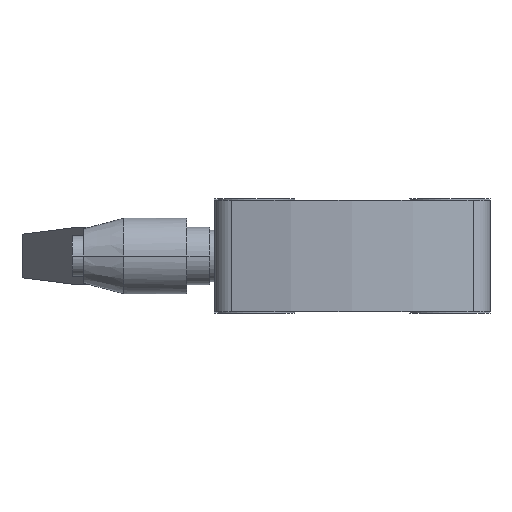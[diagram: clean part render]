
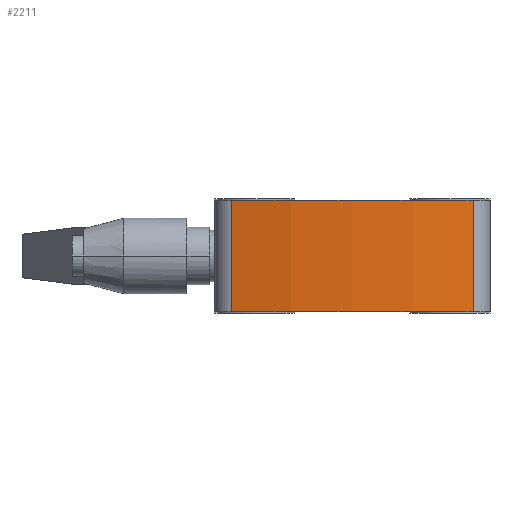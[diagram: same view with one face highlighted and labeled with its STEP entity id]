
A CAD part, left-side view. The second image highlights one B-rep face of the part: STEP entity #2211.
In plain terms, the highlighted cylindrical face has radius 80 mm (diameter 160 mm), a partial arc.
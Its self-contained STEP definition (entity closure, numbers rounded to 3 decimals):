
#56 = CARTESIAN_POINT ( 'NONE',  ( -39.18, -21.053, 20. ) ) ;
#84 = DIRECTION ( 'NONE',  ( 0., 0., -1. ) ) ;
#130 = DIRECTION ( 'NONE',  ( 0., -1., 0. ) ) ;
#260 = VERTEX_POINT ( 'NONE', #371 ) ;
#371 = CARTESIAN_POINT ( 'NONE',  ( -39.18, -21.053, 19.7 ) ) ;
#394 = CARTESIAN_POINT ( 'NONE',  ( 38., 0., 0.3 ) ) ;
#433 = CYLINDRICAL_SURFACE ( 'NONE', #1556, 80. ) ;
#471 = CARTESIAN_POINT ( 'NONE',  ( -39.18, -21.053, 0.3 ) ) ;
#479 = CARTESIAN_POINT ( 'NONE',  ( -39.18, 21.053, 0.3 ) ) ;
#531 = ORIENTED_EDGE ( 'NONE', *, *, #2380, .F. ) ;
#845 = ORIENTED_EDGE ( 'NONE', *, *, #2879, .F. ) ;
#934 = DIRECTION ( 'NONE',  ( 0., 0., -1. ) ) ;
#989 = DIRECTION ( 'NONE',  ( 0., -1., 0. ) ) ;
#1175 = EDGE_CURVE ( 'NONE', #3067, #3052, #2664, .T. ) ;
#1258 = CARTESIAN_POINT ( 'NONE',  ( 38., 0., 19.7 ) ) ;
#1283 = DIRECTION ( 'NONE',  ( 0., 0., -1. ) ) ;
#1341 = VECTOR ( 'NONE', #84, 1000. ) ;
#1426 = CARTESIAN_POINT ( 'NONE',  ( 38., 0., 20. ) ) ;
#1475 = DIRECTION ( 'NONE',  ( 0., 0., -1. ) ) ;
#1556 = AXIS2_PLACEMENT_3D ( 'NONE', #1426, #1475, #130 ) ;
#1557 = AXIS2_PLACEMENT_3D ( 'NONE', #394, #934, #3220 ) ;
#1597 = AXIS2_PLACEMENT_3D ( 'NONE', #1258, #2508, #989 ) ;
#1928 = VERTEX_POINT ( 'NONE', #471 ) ;
#1979 = EDGE_LOOP ( 'NONE', ( #2859, #531, #2015, #845 ) ) ;
#2015 = ORIENTED_EDGE ( 'NONE', *, *, #1175, .T. ) ;
#2028 = CIRCLE ( 'NONE', #1597, 80. ) ;
#2211 = ADVANCED_FACE ( 'NONE', ( #2231 ), #433, .T. ) ;
#2231 = FACE_OUTER_BOUND ( 'NONE', #1979, .T. ) ;
#2365 = VECTOR ( 'NONE', #1283, 1000. ) ;
#2380 = EDGE_CURVE ( 'NONE', #3067, #260, #2028, .T. ) ;
#2403 = CARTESIAN_POINT ( 'NONE',  ( -39.18, 21.053, 20. ) ) ;
#2508 = DIRECTION ( 'NONE',  ( 0., 0., 1. ) ) ;
#2570 = CIRCLE ( 'NONE', #1557, 80. ) ;
#2634 = LINE ( 'NONE', #56, #2365 ) ;
#2664 = LINE ( 'NONE', #2403, #1341 ) ;
#2859 = ORIENTED_EDGE ( 'NONE', *, *, #3305, .F. ) ;
#2879 = EDGE_CURVE ( 'NONE', #1928, #3052, #2570, .T. ) ;
#3044 = CARTESIAN_POINT ( 'NONE',  ( -39.18, 21.053, 19.7 ) ) ;
#3052 = VERTEX_POINT ( 'NONE', #479 ) ;
#3067 = VERTEX_POINT ( 'NONE', #3044 ) ;
#3220 = DIRECTION ( 'NONE',  ( 0., -1., 0. ) ) ;
#3305 = EDGE_CURVE ( 'NONE', #260, #1928, #2634, .T. ) ;
